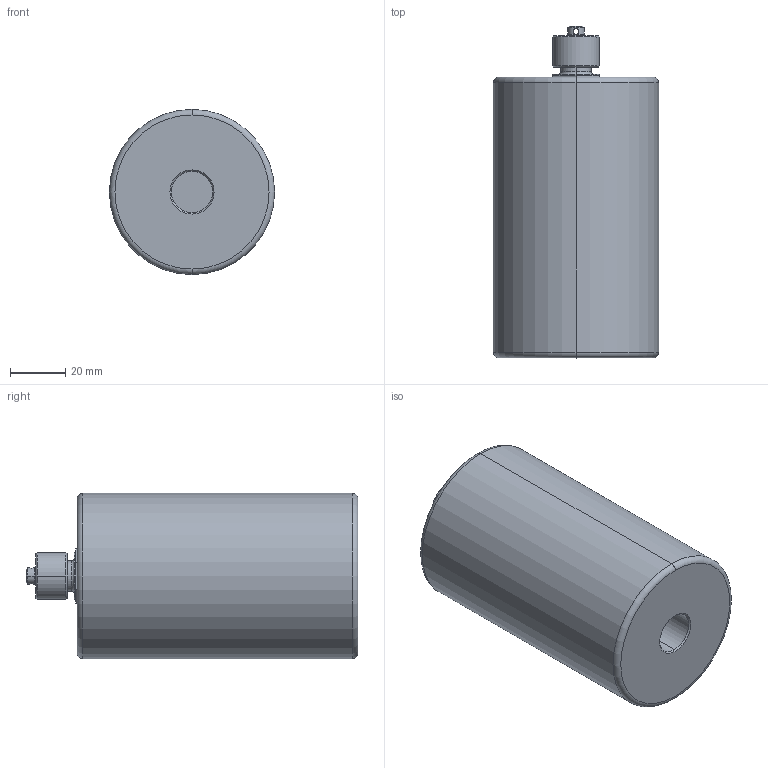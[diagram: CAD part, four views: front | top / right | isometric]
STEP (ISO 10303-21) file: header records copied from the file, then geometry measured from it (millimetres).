
FILE_DESCRIPTION (( 'STEP AP214' ), '1' );
FILE_NAME ('U001A01X1-PC.STEP', '2025-04-10T10:35:57', ( '' ), ( '' ), 'SwSTEP 2.0', 'SolidWorks 2024', '' );
FILE_SCHEMA (( 'AUTOMOTIVE_DESIGN' ));
Length unit declared in the file: millimetre
Products named in the file (1): U001A01X1-PC
Bounding box: 60 x 120.58 x 60 mm (x, y, z)
Volume: 278401.5 mm3; surface area: 35595.5 mm2
Topology: 6 solids, 7 shells, 162 faces, 342 edges, 198 vertices
Faces by surface type: cylinder 48, plane 42, torus 42, cone 30
Entity records: 6007 total; most frequent: DIRECTION 857, CARTESIAN_POINT 815, ORIENTED_EDGE 684, AXIS2_PLACEMENT_3D 372, EDGE_CURVE 342, CIRCLE 209, VERTEX_POINT 198, EDGE_LOOP 178
